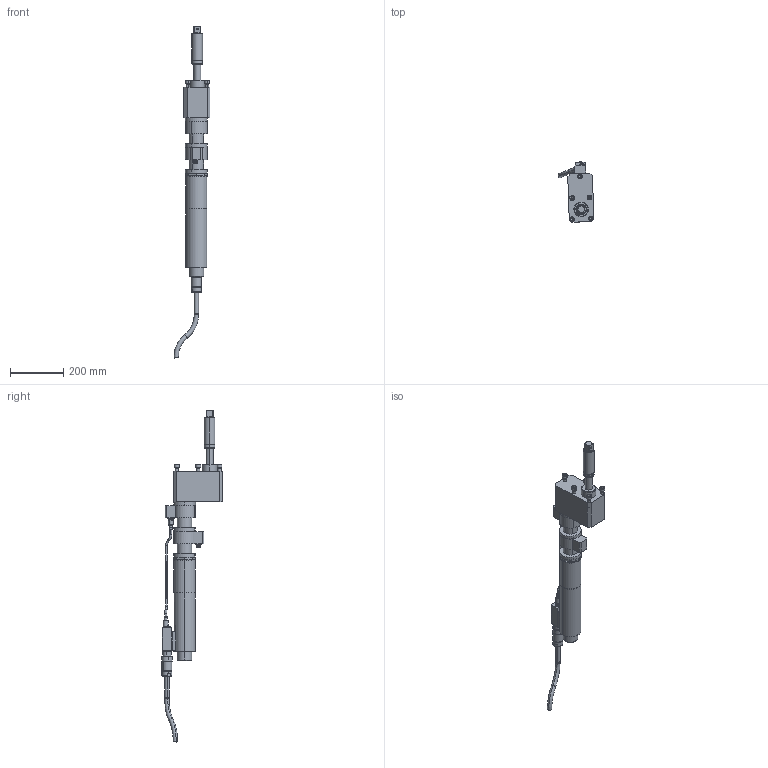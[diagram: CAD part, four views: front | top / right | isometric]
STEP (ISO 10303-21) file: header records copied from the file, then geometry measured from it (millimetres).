
FILE_DESCRIPTION(('CATIA V5 STEP'),'2;1');
FILE_NAME('O:\3D-Schrauber\stp\7920586_ECR344_DWR450_DR450_AO3460_AllCATPart.stp','2010-05-05T11:15:19+00:00',('none'),('none'),'CATIA Version 5 Release 19 SP 3 (IN-10)','CATIA V5 STEP AP214','none');
FILE_SCHEMA(('AUTOMOTIVE_DESIGN { 1 0 10303 214 1 1 1 1 }'));
Length unit declared in the file: millimetre
Products named in the file (1): 7920586_ECR344_DWR450_DR450_AO3460_AllCATPart
Bounding box: 134.88 x 229.1 x 1251.16 mm (x, y, z)
Volume: 5472017.9 mm3; surface area: 465072.2 mm2
Topology: 29 solids, 29 shells, 722 faces, 1670 edges, 1064 vertices
Faces by surface type: cylinder 285, plane 285, cone 82, torus 66, sphere 4
Entity records: 21368 total; most frequent: CARTESIAN_POINT 5808, ORIENTED_EDGE 3328, DIRECTION 2627, EDGE_CURVE 1664, AXIS2_PLACEMENT_3D 1293, VERTEX_POINT 1064, EDGE_LOOP 790, VECTOR 730
